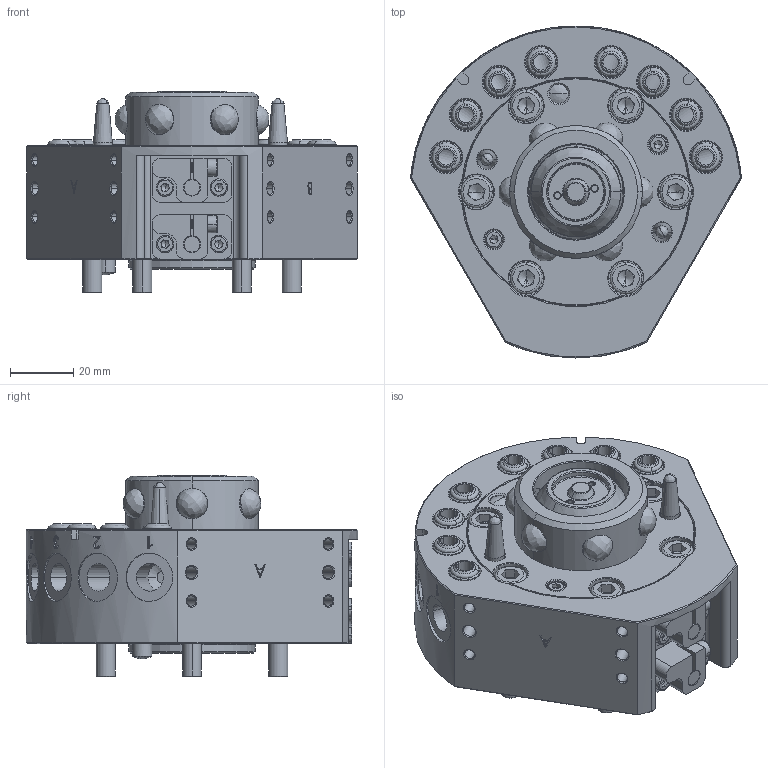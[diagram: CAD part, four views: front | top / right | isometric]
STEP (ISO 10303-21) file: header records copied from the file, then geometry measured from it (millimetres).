
FILE_DESCRIPTION (( 'STEP AP203' ), '1' );
FILE_NAME ('QCA-35R-S.STEP', '2025-02-27T01:30:46', ( 'Windows User' ), ( 'P R C' ), 'SwSTEP 2.0', 'SolidWorks 2018', '' );
FILE_SCHEMA (( 'CONFIG_CONTROL_DESIGN' ));
Length unit declared in the file: millimetre
Products named in the file (1): QCA-35R-S
Bounding box: 104.62 x 105 x 63.8 mm (x, y, z)
Volume: 294974.2 mm3; surface area: 49708.7 mm2
Topology: 7 solids, 36 shells, 1897 faces, 4581 edges, 2784 vertices
Faces by surface type: cone 673, cylinder 602, plane 455, bspline 155, torus 12
Entity records: 68931 total; most frequent: CARTESIAN_POINT 24573, DIRECTION 9762, ORIENTED_EDGE 8986, EDGE_CURVE 4493, AXIS2_PLACEMENT_3D 3900, VERTEX_POINT 2784, CIRCLE 2157, EDGE_LOOP 2079
